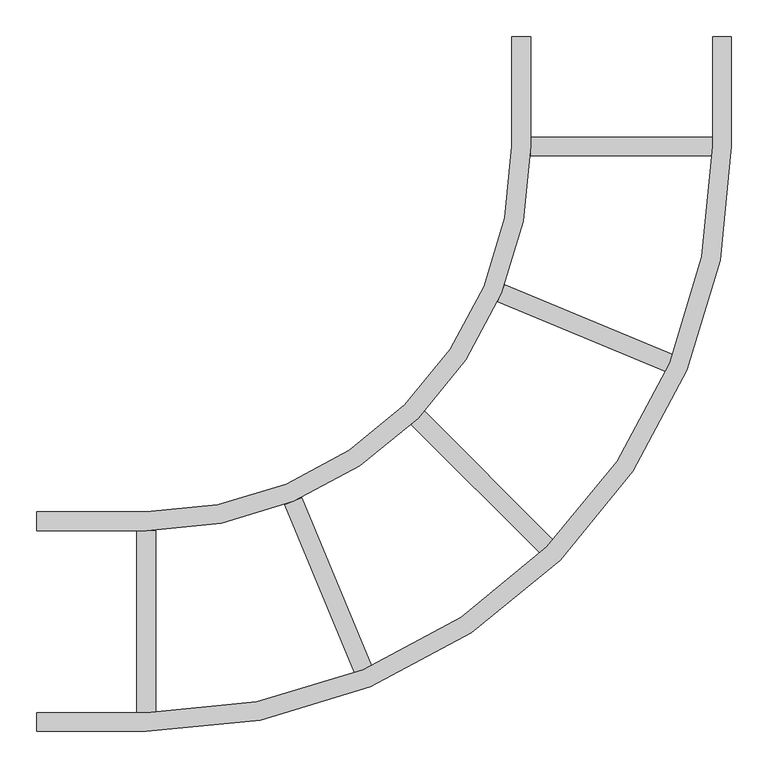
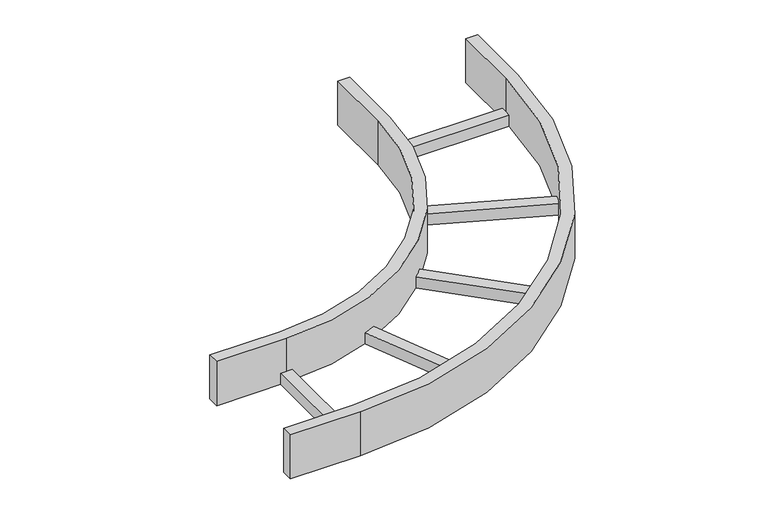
"""IFC4 building model written with IfcOpenShell, lengths in millimetres: cable carrier fitting geometry, BAKS_LDLS_BEND_Horizontal bend_LDS : LDSC/LDSMC_H100."""

from ifc_helpers import new_model, si_unit, point, frame, frame_2d, origin, place, context, project, spatial, polyline, circle_curve, trimmed, segment, composite_curve, outline, extrude, source, transform, mapped, element, save


def cable_carrier_fitting_aab6282a(model_context):
    return source(origin(), model_context, "Body", "SweptSolid", [
        extrude(outline(polyline([(-169.4537732, 437.2048546), (-159.733614, 460.6713947), (70.4971655, 365.3066834), (60.7770063, 341.8401432), (-169.4537732, 437.2048546)])), frame((0.0, 0.0, -50.0), z_axis=(0.0, 0.0, 1.0), x_axis=(1.0, 0.0, 0.0)), (0.0, 0.0, 1.0), 25.4),
        extrude(outline(polyline([(-460.6713947, 159.733614), (-437.2048546, 169.4537732), (-341.8401432, -60.7770063), (-365.3066834, -70.4971655), (-460.6713947, 159.733614)])), frame((0.0, 0.0, -50.0), z_axis=(0.0, 0.0, 1.0), x_axis=(1.0, 0.0, 0.0)), (0.0, 0.0, 1.0), 25.4),
        extrude(outline(polyline([(-124.6, 637.3), (-124.6, 662.7), (124.6, 662.7), (124.6, 637.3), (-124.6, 637.3)])), frame((0.0, 0.0, -50.0), z_axis=(0.0, 0.0, 1.0), x_axis=(1.0, 0.0, 0.0)), (0.0, 0.0, 1.0), 25.4),
        extrude(outline(polyline([(-662.7, 124.6), (-637.3, 124.6), (-637.3, -124.6), (-662.7, -124.6), (-662.7, 124.6)])), frame((0.0, 0.0, -50.0), z_axis=(0.0, 0.0, 1.0), x_axis=(1.0, 0.0, 0.0)), (0.0, 0.0, 1.0), 25.4),
        extrude(outline(polyline([(-287.4663533, 269.505841), (-269.505841, 287.4663533), (-93.2948312, 111.2553434), (-111.2553434, 93.2948312), (-287.4663533, 269.505841)])), frame((0.0, 0.0, -50.0), z_axis=(0.0, 0.0, 1.0), x_axis=(1.0, 0.0, 0.0)), (0.0, 0.0, 1.0), 25.4),
        extrude(outline(composite_curve([segment(polyline([(-800.0, -150.0), (-800.0, -124.6), (-650.0, -124.6)]), True, "CONTINUOUS"), segment(trimmed(circle_curve(frame_2d((-650.0, 650.0)), 774.6), [point((-650.0, -124.6))], [point((124.6, 650.0))], True, "CARTESIAN"), True, "CONTINUOUS"), segment(polyline([(124.6, 650.0), (124.6, 800.0), (150.0, 800.0), (150.0, 650.0)]), True, "CONTINUOUS"), segment(trimmed(circle_curve(frame_2d((-650.0, 650.0)), 800.0), [point((150.0, 650.0))], [point((-650.0, -150.0))], False, "CARTESIAN"), True, "CONTINUOUS"), segment(polyline([(-650.0, -150.0), (-800.0, -150.0)]), True, "CONTINUOUS")], self_intersect=False)), frame((0.0, 0.0, -50.0), z_axis=(0.0, 0.0, 1.0), x_axis=(1.0, 0.0, 0.0)), (0.0, 0.0, 1.0), 100.0),
        extrude(outline(composite_curve([segment(polyline([(-800.0, 124.6), (-800.0, 150.0), (-650.0, 150.0)]), True, "CONTINUOUS"), segment(trimmed(circle_curve(frame_2d((-650.0, 650.0)), 500.0), [point((-650.0, 150.0))], [point((-150.0, 650.0))], True, "CARTESIAN"), True, "CONTINUOUS"), segment(polyline([(-150.0, 650.0), (-150.0, 800.0), (-124.6, 800.0), (-124.6, 650.0)]), True, "CONTINUOUS"), segment(trimmed(circle_curve(frame_2d((-650.0, 650.0)), 525.4), [point((-124.6, 650.0))], [point((-650.0, 124.6))], False, "CARTESIAN"), True, "CONTINUOUS"), segment(polyline([(-650.0, 124.6), (-800.0, 124.6)]), True, "CONTINUOUS")], self_intersect=False)), frame((0.0, 0.0, -50.0), z_axis=(0.0, 0.0, 1.0), x_axis=(1.0, 0.0, 0.0)), (0.0, 0.0, 1.0), 100.0),
    ])


if __name__ == "__main__":
    model = new_model("IFC4")
    model_context = context("Model", 3, world=origin())
    ifc_project = project(units=[si_unit("LENGTHUNIT", "METRE", prefix="MILLI")], contexts=[model_context])
    site = spatial("IfcSite", under=ifc_project)
    building = spatial("IfcBuilding", under=site)
    placement = place(None, origin())
    cable_carrier_fitting_shape = cable_carrier_fitting_aab6282a(model_context)
    element("IfcCableCarrierFitting", 1, ObjectType="BAKS_LDLS_BEND_Horizontal bend_LDS : LDSC/LDSMC_H100", at=placement, inside=building, context=model_context, shape_type="MappedRepresentation", body=[
        mapped(cable_carrier_fitting_shape, transform((0.0, 0.0, 0.0), x_axis=(1.0, 0.0, 0.0), y_axis=(0.0, 1.0, 0.0), z_axis=(0.0, 0.0, 1.0))),
    ])
    save(model, "model.ifc")
